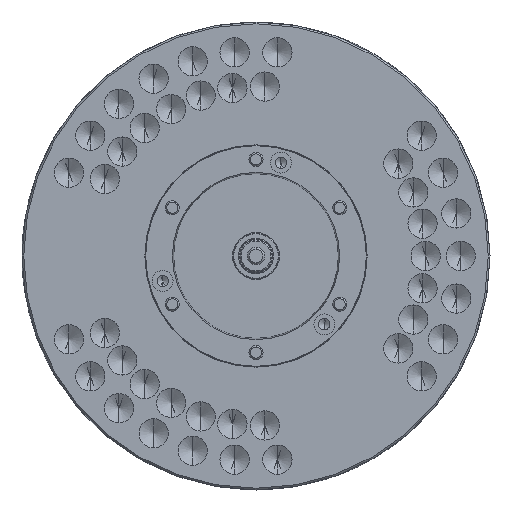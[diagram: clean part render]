
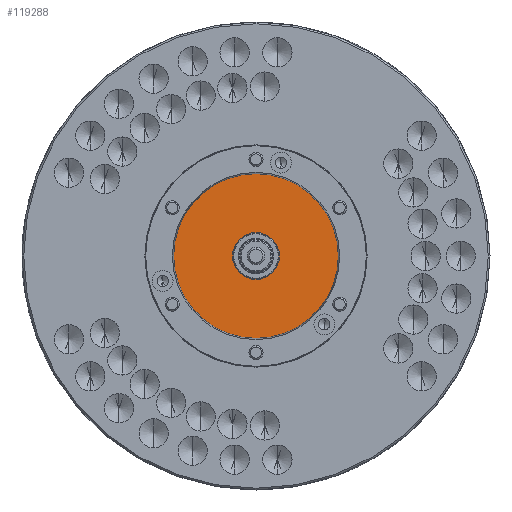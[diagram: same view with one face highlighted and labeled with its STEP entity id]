
A CAD part, left-side view. The second image highlights one B-rep face of the part: STEP entity #119288.
In plain terms, the highlighted planar face has unit normal (-1, 0, 0) as drawn and (0, 0, -1) by its records, which use the part's own axes.
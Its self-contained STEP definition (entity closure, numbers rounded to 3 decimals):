
#1853 = ORIENTED_EDGE ( 'NONE', *, *, #69907, .F. ) ;
#7018 = CARTESIAN_POINT ( 'NONE',  ( 0., 0., -145. ) ) ;
#12028 = VERTEX_POINT ( 'NONE', #88255 ) ;
#12467 = AXIS2_PLACEMENT_3D ( 'NONE', #71743, #155867, #83845 ) ;
#14317 = VERTEX_POINT ( 'NONE', #108957 ) ;
#14612 = EDGE_CURVE ( 'NONE', #14317, #12028, #71102, .T. ) ;
#15864 = EDGE_LOOP ( 'NONE', ( #61989, #119043 ) ) ;
#16108 = VERTEX_POINT ( 'NONE', #101973 ) ;
#19113 = DIRECTION ( 'NONE',  ( 1., 0., 0. ) ) ;
#19125 = AXIS2_PLACEMENT_3D ( 'NONE', #98806, #122936, #50885 ) ;
#19923 = CARTESIAN_POINT ( 'NONE',  ( 0., 0., -145. ) ) ;
#24635 = CARTESIAN_POINT ( 'NONE',  ( 0., 0., -145. ) ) ;
#26674 = VERTEX_POINT ( 'NONE', #85617 ) ;
#31344 = ORIENTED_EDGE ( 'NONE', *, *, #14612, .F. ) ;
#32021 = DIRECTION ( 'NONE',  ( 1., 0., 0. ) ) ;
#36775 = DIRECTION ( 'NONE',  ( 1., 0., 0. ) ) ;
#38786 = PLANE ( 'NONE',  #19125 ) ;
#45106 = CIRCLE ( 'NONE', #67175, 140.7 ) ;
#50885 = DIRECTION ( 'NONE',  ( 1., 0., 0. ) ) ;
#56759 = EDGE_LOOP ( 'NONE', ( #1853, #31344 ) ) ;
#61989 = ORIENTED_EDGE ( 'NONE', *, *, #67238, .T. ) ;
#67175 = AXIS2_PLACEMENT_3D ( 'NONE', #7018, #91236, #19113 ) ;
#67238 = EDGE_CURVE ( 'NONE', #26674, #16108, #96984, .T. ) ;
#68308 = EDGE_CURVE ( 'NONE', #16108, #26674, #100042, .T. ) ;
#69907 = EDGE_CURVE ( 'NONE', #12028, #14317, #45106, .T. ) ;
#71102 = CIRCLE ( 'NONE', #87499, 140.7 ) ;
#71743 = CARTESIAN_POINT ( 'NONE',  ( 0., 0., -145. ) ) ;
#83845 = DIRECTION ( 'NONE',  ( 1., 0., 0. ) ) ;
#85617 = CARTESIAN_POINT ( 'NONE',  ( 40., 0., -145. ) ) ;
#87499 = AXIS2_PLACEMENT_3D ( 'NONE', #19923, #104112, #32021 ) ;
#88255 = CARTESIAN_POINT ( 'NONE',  ( 140.7, 0., -145. ) ) ;
#91236 = DIRECTION ( 'NONE',  ( 0., 0., 1. ) ) ;
#96984 = CIRCLE ( 'NONE', #129292, 40. ) ;
#98806 = CARTESIAN_POINT ( 'NONE',  ( 0., -140.7, -145. ) ) ;
#100042 = CIRCLE ( 'NONE', #12467, 40. ) ;
#101973 = CARTESIAN_POINT ( 'NONE',  ( -40., 0., -145. ) ) ;
#104112 = DIRECTION ( 'NONE',  ( 0., 0., 1. ) ) ;
#108850 = DIRECTION ( 'NONE',  ( 0., 0., 1. ) ) ;
#108957 = CARTESIAN_POINT ( 'NONE',  ( -140.7, 0., -145. ) ) ;
#119043 = ORIENTED_EDGE ( 'NONE', *, *, #68308, .T. ) ;
#119288 = ADVANCED_FACE ( 'NONE', ( #150266, #154036 ), #38786, .F. ) ;
#122936 = DIRECTION ( 'NONE',  ( 0., 0., 1. ) ) ;
#129292 = AXIS2_PLACEMENT_3D ( 'NONE', #24635, #108850, #36775 ) ;
#150266 = FACE_OUTER_BOUND ( 'NONE', #56759, .T. ) ;
#154036 = FACE_BOUND ( 'NONE', #15864, .T. ) ;
#155867 = DIRECTION ( 'NONE',  ( 0., 0., 1. ) ) ;
